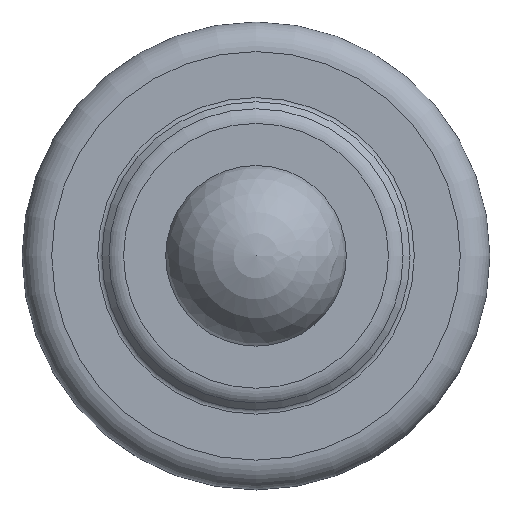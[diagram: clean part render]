
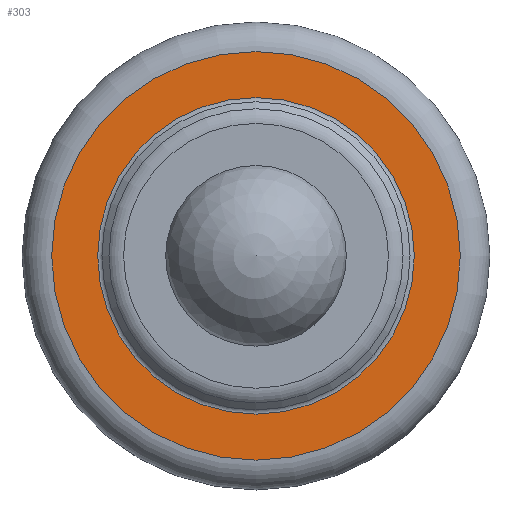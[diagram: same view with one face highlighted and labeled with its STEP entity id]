
A CAD part, top view. The second image highlights one B-rep face of the part: STEP entity #303.
In plain terms, the highlighted planar face has unit normal (0, 0, 1).
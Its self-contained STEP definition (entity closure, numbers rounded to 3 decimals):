
#41=PLANE('',#350);
#67=FACE_BOUND('',#160,.T.);
#90=CIRCLE('',#349,6.9);
#91=CIRCLE('',#351,5.345);
#116=FACE_OUTER_BOUND('',#159,.T.);
#159=EDGE_LOOP('',(#265));
#160=EDGE_LOOP('',(#266));
#194=VERTEX_POINT('',#572);
#195=VERTEX_POINT('',#575);
#220=EDGE_CURVE('',#194,#194,#90,.T.);
#221=EDGE_CURVE('',#195,#195,#91,.T.);
#265=ORIENTED_EDGE('',*,*,#220,.T.);
#266=ORIENTED_EDGE('',*,*,#221,.F.);
#303=ADVANCED_FACE('',(#116,#67),#41,.T.);
#349=AXIS2_PLACEMENT_3D('',#573,#440,#441);
#350=AXIS2_PLACEMENT_3D('',#574,#442,#443);
#351=AXIS2_PLACEMENT_3D('',#576,#444,#445);
#440=DIRECTION('center_axis',(0.,0.,1.));
#441=DIRECTION('ref_axis',(0.,-1.,0.));
#442=DIRECTION('center_axis',(0.,0.,1.));
#443=DIRECTION('ref_axis',(1.,0.,0.));
#444=DIRECTION('center_axis',(0.,0.,1.));
#445=DIRECTION('ref_axis',(0.,-1.,0.));
#572=CARTESIAN_POINT('',(0.,-6.9,4.9));
#573=CARTESIAN_POINT('Origin',(0.,0.,4.9));
#574=CARTESIAN_POINT('Origin',(0.,-6.123,4.9));
#575=CARTESIAN_POINT('',(0.,-5.345,4.9));
#576=CARTESIAN_POINT('Origin',(0.,0.,4.9));
